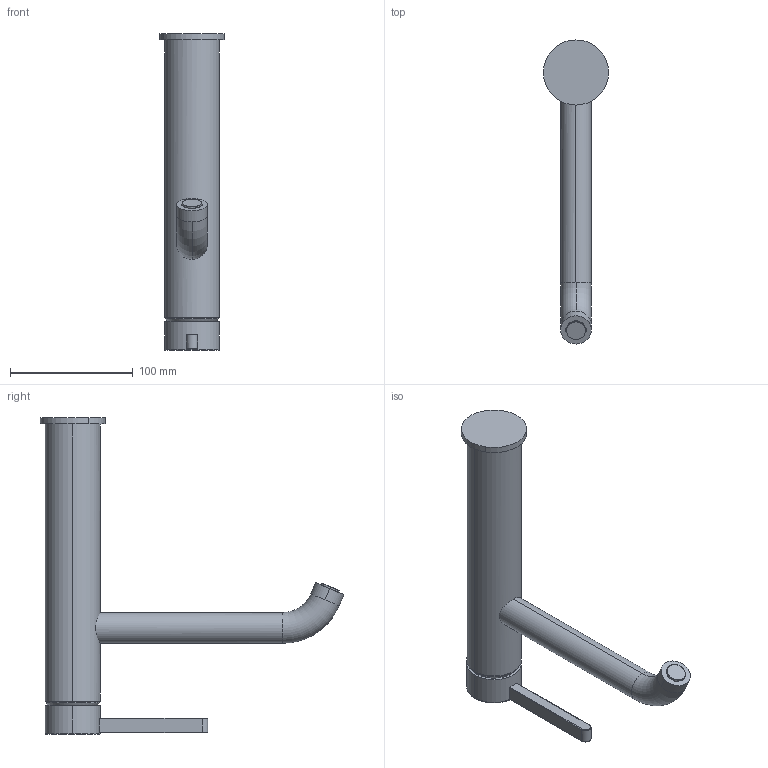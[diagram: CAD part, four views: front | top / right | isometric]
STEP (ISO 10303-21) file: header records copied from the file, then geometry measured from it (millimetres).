
FILE_DESCRIPTION((''),'2;1');
FILE_NAME('10531022','2021-06-23T16:47:51',('SN986'),(''),'CREO PARAMETRIC BY PTC INC, 2018500','CREO PARAMETRIC BY PTC INC, 2018500','');
FILE_SCHEMA(('CONFIG_CONTROL_DESIGN'));
Length unit declared in the file: millimetre
Products named in the file (1): 10531022
Bounding box: 53 x 247.28 x 257.8 mm (x, y, z)
Volume: 516308 mm3; surface area: 62086.9 mm2
Topology: 2 solids, 2 shells, 115 faces, 301 edges, 200 vertices
Faces by surface type: plane 55, cylinder 33, bspline 10, torus 8, cone 8, extrusion 1
Entity records: 4203 total; most frequent: CARTESIAN_POINT 1363, ORIENTED_EDGE 602, DIRECTION 565, EDGE_CURVE 301, AXIS2_PLACEMENT_3D 221, VERTEX_POINT 200, EDGE_LOOP 125, VECTOR 123
